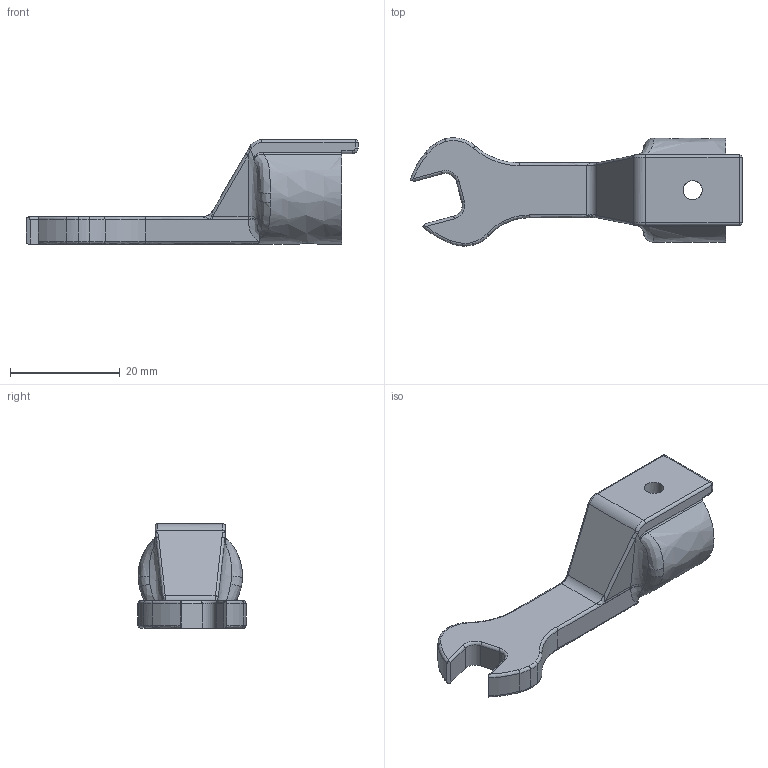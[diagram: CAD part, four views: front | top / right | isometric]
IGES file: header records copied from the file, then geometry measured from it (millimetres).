
Global section: file name: SH12DX8; native system: Autodesk Inventor 2016; preprocessor: unknown; author: Q532; date: 20151029.190534; units: millimetre
Bounding box: 60.48 x 19.71 x 19 mm (x, y, z)
Volume: 5752.6 mm3; surface area: 3599.7 mm2
Topology: 1 solids, 1 shells, 119 faces, 297 edges, 176 vertices
Faces by surface type: bspline 119
